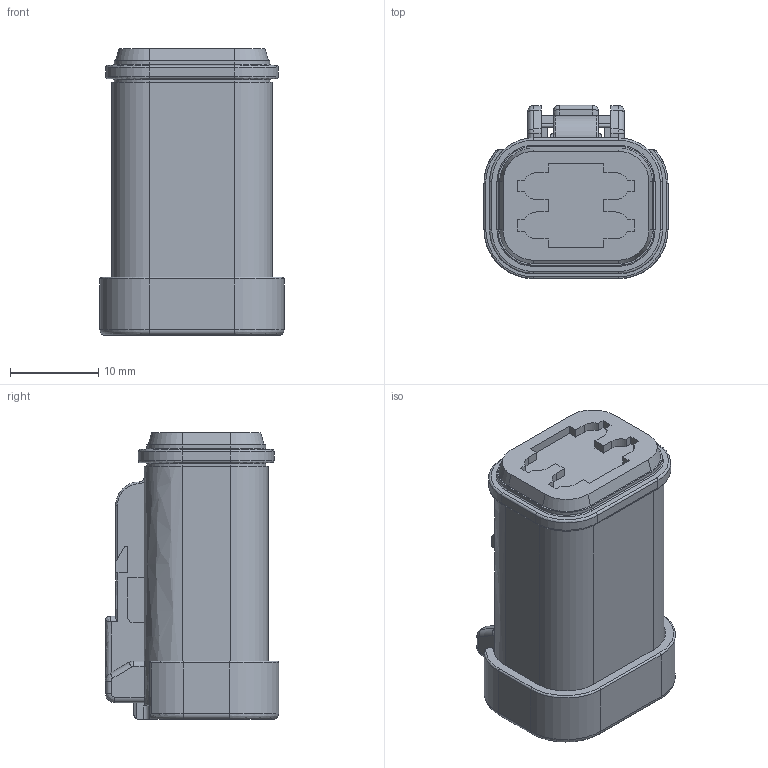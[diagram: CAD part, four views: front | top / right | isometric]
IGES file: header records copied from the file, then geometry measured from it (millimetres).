
Start section:  PTC IGES file: c-dt06-4s-ce05-99-3d.igs
Global section: file name: c-dt06-4s-ce05-99-3d.igs; native system: Creo Parametric by Parametric Technology Corporation; preprocessor: 2014090; author: workeradm; organization: Unknown; units: millimetre
Bounding box: 20.83 x 19.6 x 32.46 mm (x, y, z)
Surface area: 3764 mm2 (no closed solid volume)
Topology: 0 solids, 0 shells, 437 faces, 2278 edges, 2278 vertices
Faces by surface type: bspline 250, revolution 187
